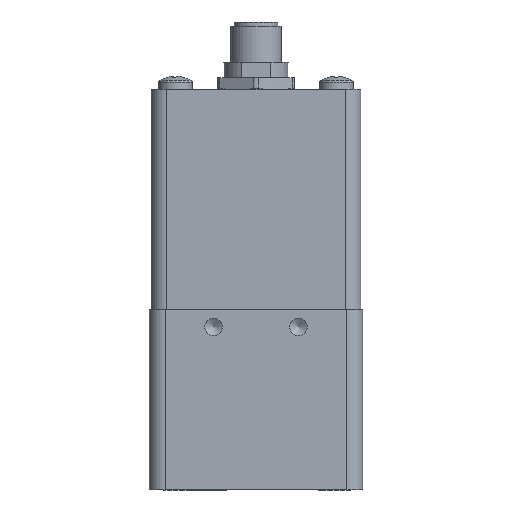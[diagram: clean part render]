
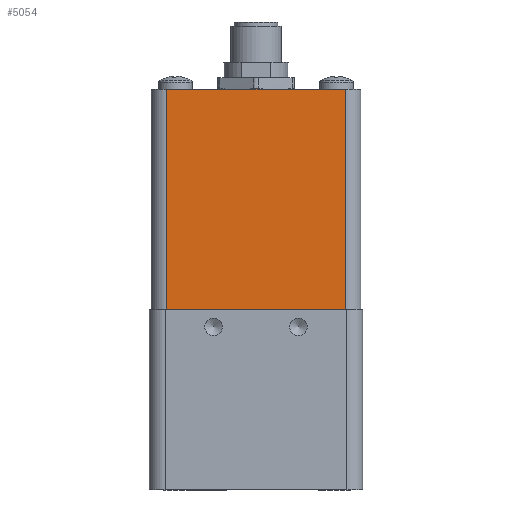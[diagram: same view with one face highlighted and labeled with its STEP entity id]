
A CAD part, front view. The second image highlights one B-rep face of the part: STEP entity #5054.
In plain terms, the highlighted planar face has unit normal (0, -1, 0).
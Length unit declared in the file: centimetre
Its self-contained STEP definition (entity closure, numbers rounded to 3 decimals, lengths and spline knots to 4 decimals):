
#469=FACE_OUTER_BOUND('',#784,.T.);
#784=EDGE_LOOP('',(#3661,#3662,#3663,#3664));
#1316=LINE('',#7485,#1708);
#1330=LINE('',#7873,#1722);
#1331=LINE('',#7877,#1723);
#1332=LINE('',#7878,#1724);
#1708=VECTOR('',#6091,4.2);
#1722=VECTOR('',#6151,5.2);
#1723=VECTOR('',#6156,5.2);
#1724=VECTOR('',#6157,4.2);
#2130=VERTEX_POINT('',#7482);
#2131=VERTEX_POINT('',#7484);
#2160=VERTEX_POINT('',#7872);
#2161=VERTEX_POINT('',#7876);
#2662=EDGE_CURVE('',#2131,#2130,#1316,.T.);
#2713=EDGE_CURVE('',#2160,#2130,#1330,.T.);
#2715=EDGE_CURVE('',#2131,#2161,#1331,.T.);
#2716=EDGE_CURVE('',#2161,#2160,#1332,.T.);
#3661=ORIENTED_EDGE('',*,*,#2715,.F.);
#3662=ORIENTED_EDGE('',*,*,#2662,.T.);
#3663=ORIENTED_EDGE('',*,*,#2713,.F.);
#3664=ORIENTED_EDGE('',*,*,#2716,.F.);
#4555=PLANE('',#5409);
#5054=ADVANCED_FACE('',(#469),#4555,.T.);
#5409=AXIS2_PLACEMENT_3D('',#7875,#6154,#6155);
#6091=DIRECTION('',(-1.,0.,0.));
#6151=DIRECTION('',(0.,0.,1.));
#6154=DIRECTION('center_axis',(0.,-1.,0.));
#6155=DIRECTION('ref_axis',(0.,0.,1.));
#6156=DIRECTION('',(0.,0.,-1.));
#6157=DIRECTION('',(-1.,0.,0.));
#7482=CARTESIAN_POINT('',(0.4175,0.0425,7.25));
#7484=CARTESIAN_POINT('',(4.6175,0.0425,7.25));
#7485=CARTESIAN_POINT('',(4.6175,0.0425,7.25));
#7872=CARTESIAN_POINT('',(0.4175,0.0425,2.05));
#7873=CARTESIAN_POINT('',(0.4175,0.0425,2.05));
#7875=CARTESIAN_POINT('Origin',(4.9925,0.0425,6.94));
#7876=CARTESIAN_POINT('',(4.6175,0.0425,2.05));
#7877=CARTESIAN_POINT('',(4.6175,0.0425,7.25));
#7878=CARTESIAN_POINT('',(4.6175,0.0425,2.05));
